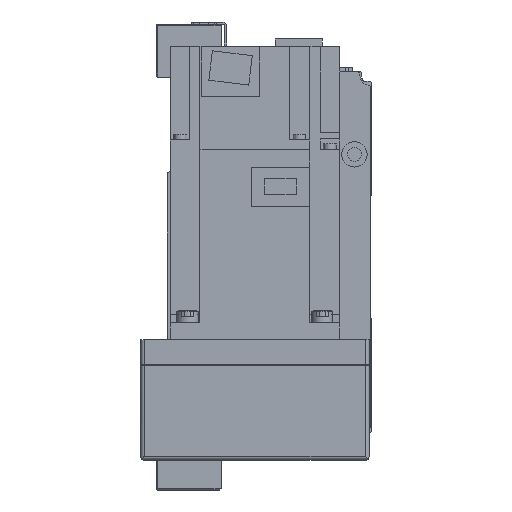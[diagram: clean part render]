
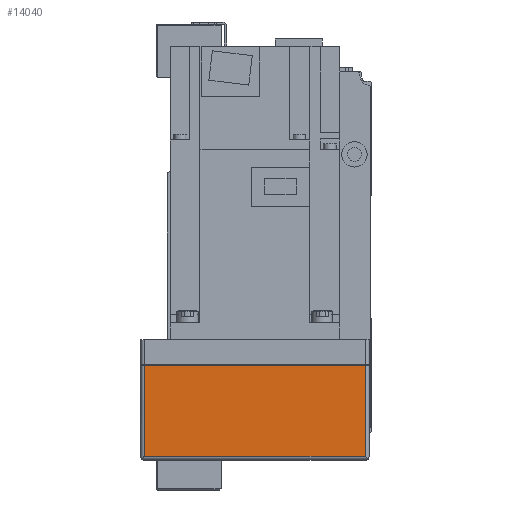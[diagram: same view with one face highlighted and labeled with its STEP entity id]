
A CAD part, left-side view. The second image highlights one B-rep face of the part: STEP entity #14040.
In plain terms, the highlighted planar face has unit normal (-1, 0, 0).
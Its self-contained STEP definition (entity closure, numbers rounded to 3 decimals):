
#2528=ORIENTED_EDGE('',*,*,#5822,.T.);
#2529=ORIENTED_EDGE('',*,*,#5750,.T.);
#2530=ORIENTED_EDGE('',*,*,#5823,.F.);
#2531=ORIENTED_EDGE('',*,*,#5762,.F.);
#5750=EDGE_CURVE('',#7546,#7549,#9020,.T.);
#5762=EDGE_CURVE('',#7556,#7558,#9025,.T.);
#5822=EDGE_CURVE('',#7556,#7546,#9067,.T.);
#5823=EDGE_CURVE('',#7558,#7549,#9068,.T.);
#7546=VERTEX_POINT('',#21977);
#7549=VERTEX_POINT('',#21983);
#7556=VERTEX_POINT('',#22006);
#7558=VERTEX_POINT('',#22009);
#9020=LINE('',#21984,#10333);
#9025=LINE('',#22008,#10338);
#9067=LINE('',#22132,#10380);
#9068=LINE('',#22133,#10381);
#10333=VECTOR('',#17545,1000.);
#10338=VECTOR('',#17572,1000.);
#10380=VECTOR('',#17692,1000.);
#10381=VECTOR('',#17693,1000.);
#11489=EDGE_LOOP('',(#2528,#2529,#2530,#2531));
#12552=FACE_BOUND('',#11489,.T.);
#13447=PLANE('',#15091);
#14040=ADVANCED_FACE('',(#12552),#13447,.T.);
#15091=AXIS2_PLACEMENT_3D('',#22131,#17690,#17691);
#17545=DIRECTION('',(0.,0.,1.));
#17572=DIRECTION('',(0.,0.,1.));
#17690=DIRECTION('',(-1.,0.,0.));
#17691=DIRECTION('',(0.,0.,1.));
#17692=DIRECTION('',(0.,-1.,0.));
#17693=DIRECTION('',(0.,-1.,0.));
#21977=CARTESIAN_POINT('',(-230.,-52.,-55.));
#21983=CARTESIAN_POINT('',(-230.,-52.,-12.));
#21984=CARTESIAN_POINT('',(-230.,-52.,-57.));
#22006=CARTESIAN_POINT('',(-230.,52.,-55.));
#22008=CARTESIAN_POINT('',(-230.,52.,-57.));
#22009=CARTESIAN_POINT('',(-230.,52.,-12.));
#22131=CARTESIAN_POINT('',(-230.,52.,-57.));
#22132=CARTESIAN_POINT('',(-230.,54.,-55.));
#22133=CARTESIAN_POINT('',(-230.,52.,-12.));
